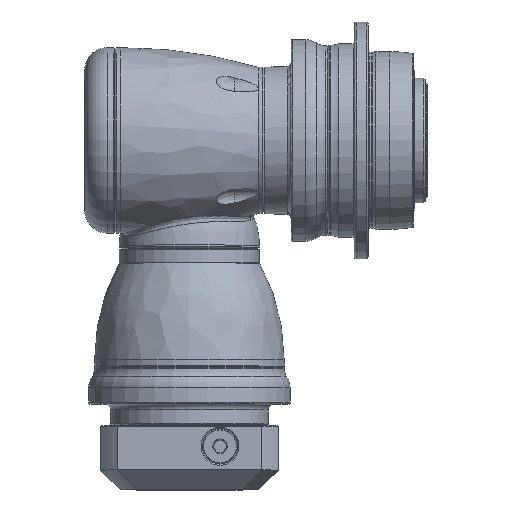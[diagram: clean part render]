
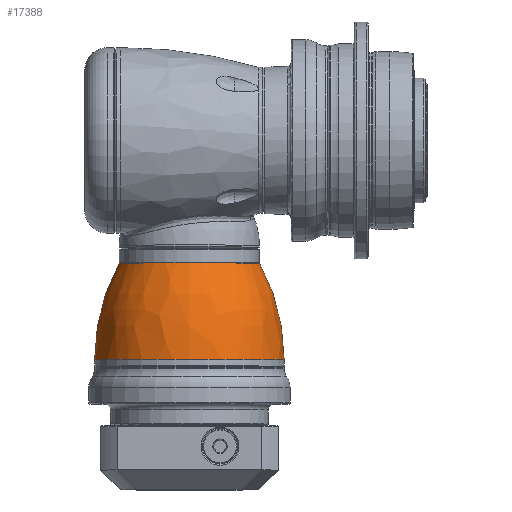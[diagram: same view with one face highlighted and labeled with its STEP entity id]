
A CAD part, top view. The second image highlights one B-rep face of the part: STEP entity #17388.
In plain terms, the highlighted free-form (B-spline) face has degree [3, 3] with [7, 4] control points.
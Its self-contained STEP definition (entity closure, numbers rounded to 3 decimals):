
#17173=CARTESIAN_POINT('',(-3.5,0.,0.));
#17174=DIRECTION('',(1.,0.,0.));
#17175=DIRECTION('',(0.,1.,0.));
#17176=AXIS2_PLACEMENT_3D('',#17173,#17174,#17175);
#17178=CARTESIAN_POINT('',(-52.388,0.,0.));
#17179=DIRECTION('',(-1.,0.,0.));
#17180=DIRECTION('',(0.,-1.,0.));
#17181=AXIS2_PLACEMENT_3D('',#17178,#17179,#17180);
#17183=CARTESIAN_POINT('',(-3.5,-54.29,0.));
#17184=DIRECTION('',(0.,0.,-1.));
#17185=DIRECTION('',(-0.478,0.878,0.));
#17186=AXIS2_PLACEMENT_3D('',#17183,#17184,#17185);
#17188=CARTESIAN_POINT('',(-3.5,54.29,0.));
#17189=DIRECTION('',(0.,0.,1.));
#17190=DIRECTION('',(-0.478,-0.878,0.));
#17191=AXIS2_PLACEMENT_3D('',#17188,#17189,#17190);
#17254=CARTESIAN_POINT('',(-3.5,48.,0.));
#17255=CARTESIAN_POINT('',(-3.5,-48.,0.));
#17256=VERTEX_POINT('',#17254);
#17257=VERTEX_POINT('',#17255);
#17258=CARTESIAN_POINT('',(-52.388,35.561,0.));
#17259=CARTESIAN_POINT('',(-52.388,-35.561,0.));
#17260=VERTEX_POINT('',#17258);
#17261=VERTEX_POINT('',#17259);
#17350=CARTESIAN_POINT('',(-2.481,-47.9,
-3.014));
#17351=CARTESIAN_POINT('',(-20.351,-48.078,
-3.025));
#17352=CARTESIAN_POINT('',(-37.67,-43.68,
-2.748));
#17353=CARTESIAN_POINT('',(-53.281,-35.,
-2.202));
#17354=CARTESIAN_POINT('',(-2.481,-49.755,
26.464));
#17355=CARTESIAN_POINT('',(-20.351,-49.939,
26.562));
#17356=CARTESIAN_POINT('',(-37.67,-45.371,
24.132));
#17357=CARTESIAN_POINT('',(-53.281,-36.355,
19.337));
#17358=CARTESIAN_POINT('',(-2.481,-29.536,
47.995));
#17359=CARTESIAN_POINT('',(-20.351,-29.646,
48.173));
#17360=CARTESIAN_POINT('',(-37.67,-26.934,
43.766));
#17361=CARTESIAN_POINT('',(-53.281,-21.581,
35.069));
#17362=CARTESIAN_POINT('',(-2.481,0.,
47.995));
#17363=CARTESIAN_POINT('',(-20.351,0.,
48.173));
#17364=CARTESIAN_POINT('',(-37.67,0.,
43.766));
#17365=CARTESIAN_POINT('',(-53.281,0.,
35.069));
#17366=CARTESIAN_POINT('',(-2.481,29.536,
47.995));
#17367=CARTESIAN_POINT('',(-20.351,29.646,
48.173));
#17368=CARTESIAN_POINT('',(-37.67,26.934,
43.766));
#17369=CARTESIAN_POINT('',(-53.281,21.581,
35.069));
#17370=CARTESIAN_POINT('',(-2.481,49.755,
26.464));
#17371=CARTESIAN_POINT('',(-20.351,49.939,
26.562));
#17372=CARTESIAN_POINT('',(-37.67,45.371,
24.132));
#17373=CARTESIAN_POINT('',(-53.281,36.355,
19.337));
#17374=CARTESIAN_POINT('',(-2.481,47.9,
-3.014));
#17375=CARTESIAN_POINT('',(-20.351,48.078,
-3.025));
#17376=CARTESIAN_POINT('',(-37.67,43.68,
-2.748));
#17377=CARTESIAN_POINT('',(-53.281,35.,
-2.202));
#17378=(BOUNDED_SURFACE()B_SPLINE_SURFACE(3,3,((#17350,#17351,#17352,#17353),(
#17354,#17355,#17356,#17357),(#17358,#17359,#17360,#17361),(#17362,#17363,
#17364,#17365),(#17366,#17367,#17368,#17369),(#17370,#17371,#17372,#17373),(
#17374,#17375,#17376,#17377)),.UNSPECIFIED.,.F.,.F.,.F.)B_SPLINE_SURFACE_WITH_KNOTS((4,3,4),(4,4),(0.,1.,2.),(0.,1.),.UNSPECIFIED.)GEOMETRIC_REPRESENTATION_ITEM()RATIONAL_B_SPLINE_SURFACE(((1.207,1.181,
1.181,1.207),(0.953,0.932,
0.932,0.953),(0.953,0.932,
0.932,0.953),(1.207,1.181,
1.181,1.207),(0.953,0.932,
0.932,0.953),(0.953,0.932,
0.932,0.953),(1.207,1.181,
1.181,1.207)))REPRESENTATION_ITEM('')SURFACE());
#17380=ORIENTED_EDGE('',*,*,#17379,.T.);
#17382=ORIENTED_EDGE('',*,*,#17381,.T.);
#17383=ORIENTED_EDGE('',*,*,#17344,.T.);
#17385=ORIENTED_EDGE('',*,*,#17384,.F.);
#17386=EDGE_LOOP('',(#17380,#17382,#17383,#17385));
#17387=FACE_OUTER_BOUND('',#17386,.F.);
#17388=ADVANCED_FACE('',(#17387),#17378,.T.);
#17177=CIRCLE('',#17176,48.);
#17182=CIRCLE('',#17181,35.561);
#17187=CIRCLE('',#17186,102.29);
#17192=CIRCLE('',#17191,102.29);
#17344=EDGE_CURVE('',#17256,#17257,#17177,.T.);
#17379=EDGE_CURVE('',#17261,#17260,#17182,.T.);
#17381=EDGE_CURVE('',#17260,#17256,#17187,.T.);
#17384=EDGE_CURVE('',#17261,#17257,#17192,.T.);
